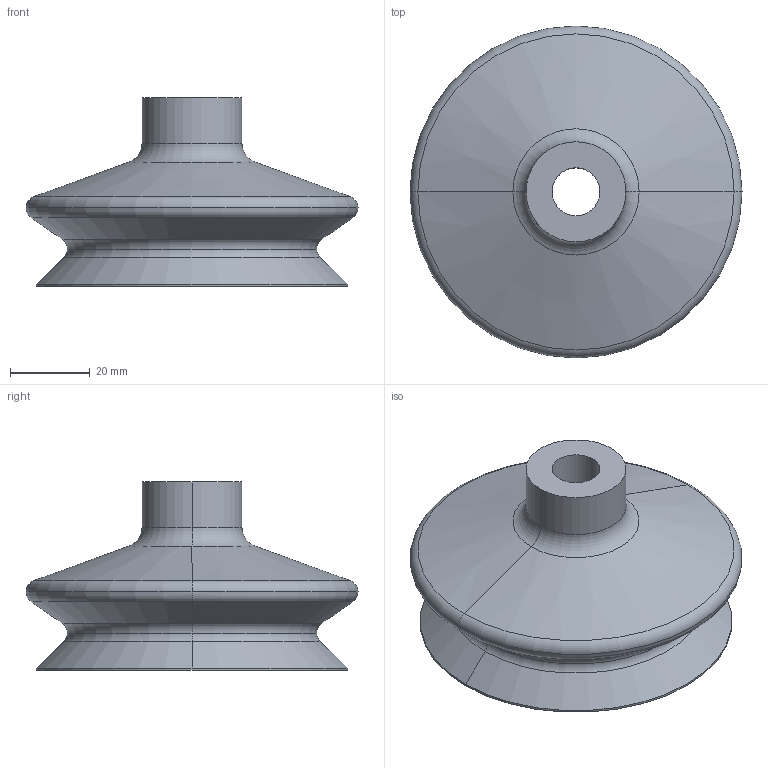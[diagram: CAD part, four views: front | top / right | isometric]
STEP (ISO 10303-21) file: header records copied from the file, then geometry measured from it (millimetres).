
FILE_DESCRIPTION (( 'STEP AP203' ), '1' );
FILE_NAME ('FGA-78.stp.STEP', '2024-08-24T03:30:38', ( '' ), ( '' ), 'SwSTEP 2.0', 'SolidWorks 2022', '' );
FILE_SCHEMA (( 'CONFIG_CONTROL_DESIGN' ));
Length unit declared in the file: millimetre
Products named in the file (1): FGA-78.stp
Bounding box: 83 x 83 x 47 mm (x, y, z)
Volume: 50951.1 mm3; surface area: 27315.3 mm2
Topology: 1 solids, 1 shells, 46 faces, 92 edges, 52 vertices
Faces by surface type: torus 18, cylinder 12, cone 10, plane 6
Entity records: 1283 total; most frequent: DIRECTION 256, CARTESIAN_POINT 191, ORIENTED_EDGE 184, AXIS2_PLACEMENT_3D 117, EDGE_CURVE 92, CIRCLE 70, EDGE_LOOP 52, VERTEX_POINT 52
